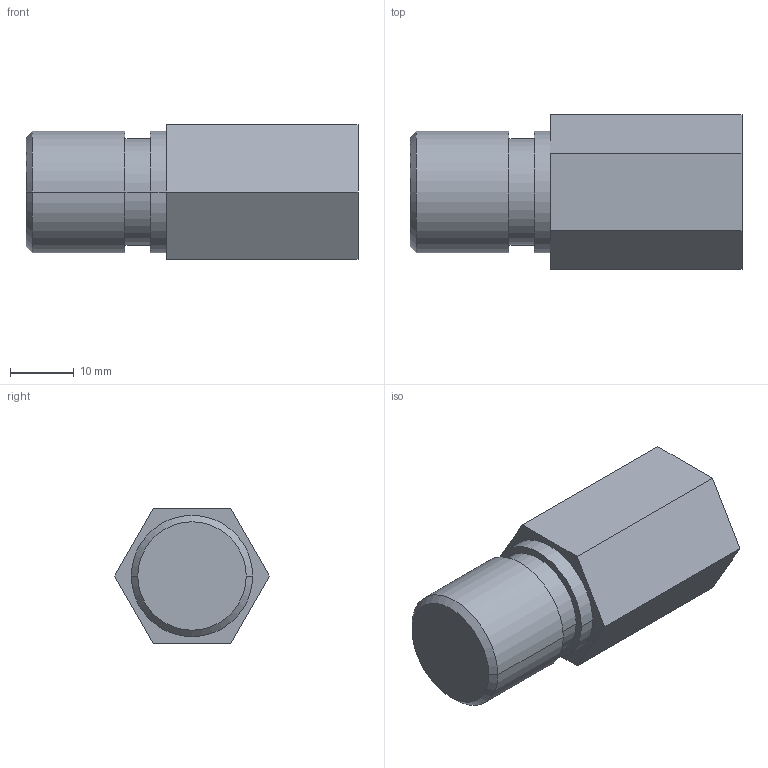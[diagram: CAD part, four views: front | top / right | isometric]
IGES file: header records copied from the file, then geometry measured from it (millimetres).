
Global section: file name: No Iges File Name specified; native system: Autodesk Inventor 2009; preprocessor: AutoDesk Inventor Iges Exporter R2009; author: y-shimohigashi; date: 20080703.162950; units: millimetre
Bounding box: 52 x 24.25 x 21 mm (x, y, z)
Volume: 14391.4 mm3; surface area: 5029.3 mm2
Topology: 1 solids, 1 shells, 22 faces, 46 edges, 30 vertices
Faces by surface type: plane 12, cylinder 6, cone 2, revolution 2
